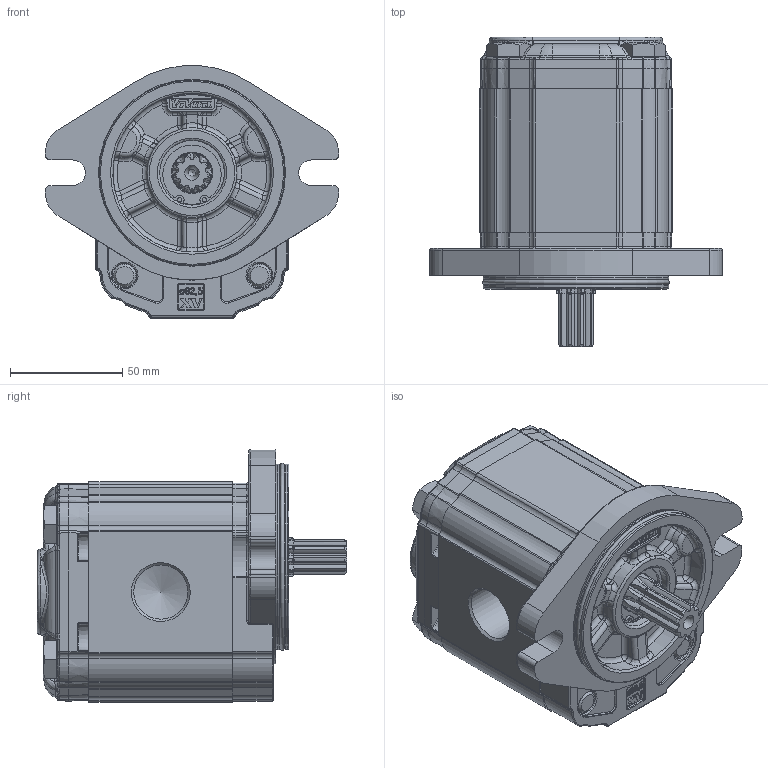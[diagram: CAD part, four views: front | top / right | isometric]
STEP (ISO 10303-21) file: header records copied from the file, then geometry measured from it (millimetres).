
FILE_DESCRIPTION(/* description */ ('Unknown'),/* implementation_level */ '2;1');
FILE_NAME(/* name */ 'X2M4931ICCF',/* time_stamp */ '2021-04-26T11:59:39+02:00',/* author */ ('Unknown'),/* organization */ ('Unknown'),/* preprocessor_version */ 'ST-DEVELOPER v16.7',/* originating_system */ 'Solid Edge',/* authorisation */ 'Unknown');
FILE_SCHEMA (('AUTOMOTIVE_DESIGN {1 0 10303 214 3 1 1}'));
Products named in the file (5): X2M4931ICCF; X2M31; 2I; X2CCH64; XM219-F
Assembly tree (4 placements, depth 2):
  X2M4931ICCF
    X2M31
    2I
    X2CCH64
    XM219-F
Bounding box: 130.38 x 137.7 x 112.3 mm (x, y, z)
Volume: 798424.8 mm3; surface area: 109104 mm2
Topology: 4 solids, 5 shells, 2113 faces, 5215 edges, 3176 vertices
Faces by surface type: cylinder 623, plane 573, bspline 513, torus 262, cone 104, sphere 38
Full cylindrical faces by diameter (mm): 2 x2, 10 x4, 10.5 x4, 11 x2, 16 x4, 17.42 x1, 18 x1, 20.595 x1, 23.332 x1, 24.117 x2, 25.834 x1, 28.5 x1, 28.56 x1, 28.57 x1, 28.8 x1, 30.4 x1, 79.6 x2, 82.5 x2
Entity records: 87672 total; most frequent: CARTESIAN_POINT 28215, ORIENTED_EDGE 10082, DIRECTION 8460, EDGE_CURVE 5041, AXIS2_PLACEMENT_3D 3219, VERTEX_POINT 3114, FACE_BOUND 2297, EDGE_LOOP 2294
